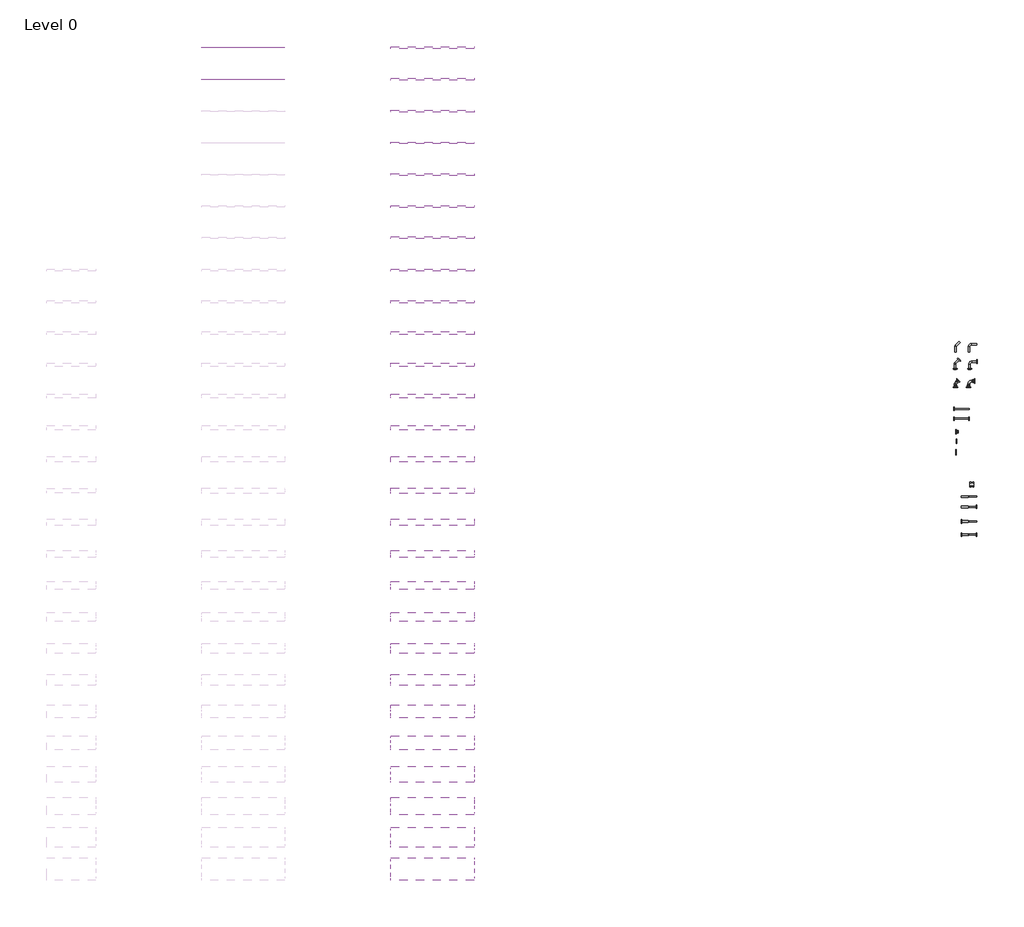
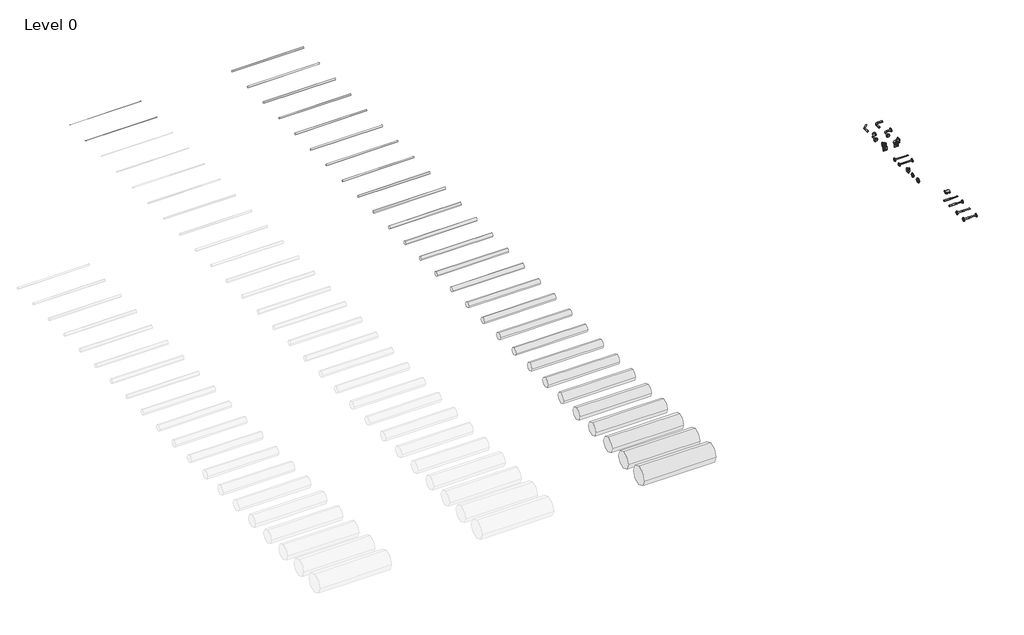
# One storey, part 4 of 4: 29 pipe segments, 16 pipe fittings.
"""IFC4 building model written with IfcOpenShell, lengths in millimetres."""

from ifc_helpers import new_model, si_unit, point, frame, frame_2d, origin, place, context, project, spatial, circle_curve, trimmed, segment, composite_curve, outline, extrude, transform, mapped, element, save
from components import pipe_fitting_988ed77e, pipe_fitting_e85de60f, pipe_fitting_1bf4a7b4, pipe_fitting_1_5d_4155cf32, pipe_fitting_1_5d_0310e5e9, pipe_fitting_1_5d_9149ee35, pipe_fitting_1_5d_a3e19622, pipe_fitting_1_5d_b493d12d, pipe_fitting_1_5d_3915571a, ansi_b16_5_class_150_oval_hole_type_57f7db80, gp_flanged_coupler_8253ec33, mechanical_double_connector_f0975d90, reducer_a0e9fbda, reducer_d87d33c5, reducer_c4914ecf, reducer_7f1960f9

model = new_model("IFC4")

# Units and contexts
model_context = context("Model", 3, world=origin())
ifc_project = project(units=[si_unit("LENGTHUNIT", "METRE", prefix="MILLI")], contexts=[model_context])

# Site, building, storey
site = spatial("IfcSite", under=ifc_project)
building = spatial("IfcBuilding", under=site)
storey = spatial("IfcBuildingStorey", under=building, Name="Level 0", Elevation=0.0)

# Pipe fittings
placement = place(None, origin())
pipe_fitting_shape = pipe_fitting_988ed77e(model_context)
element("IfcPipeFitting", 1, ObjectType="Plumbing-Pipe-Fittings_Pexgol_Flange_Flared-Ends : One side Flared end", at=placement, inside=storey, context=model_context, shape_type="MappedRepresentation", body=[
    mapped(pipe_fitting_shape, transform((53006.5183219, -12496.9453597, 0.0), x_axis=(1.0, 0.0, 0.0), y_axis=(0.0, 1.0, 0.0), z_axis=(0.0, 0.0, 1.0))),
])
pipe_fitting_2_shape = pipe_fitting_e85de60f(model_context)
element("IfcPipeFitting", 2, ObjectType="Plumbing-Pipe-Fittings_Pexgol_Flange_Flared-Ends : Both sides Flared end", at=placement, inside=storey, context=model_context, shape_type="MappedRepresentation", body=[
    mapped(pipe_fitting_2_shape, transform((53001.7727705, -12800.3576775, 0.0), x_axis=(1.0, 0.0, 0.0), y_axis=(0.0, 1.0, 0.0), z_axis=(0.0, 0.0, 1.0))),
])
pipe_fitting_3_shape = pipe_fitting_1bf4a7b4(model_context)
element("IfcPipeFitting", 3, ObjectType="Plumbing-Pipe-Fittings_Pexgol_Flange_Loose-Flange : Loose Flange for Flared end", at=placement, inside=storey, context=model_context, shape_type="MappedRepresentation", body=[
    mapped(pipe_fitting_3_shape, transform((53081.8962231, -13522.0584799, 0.0), x_axis=(1.0, 0.0, 0.0), y_axis=(0.0, 1.0, 0.0), z_axis=(0.0, 0.0, 1.0))),
])
pipe_fitting_1_5d_shape = pipe_fitting_1_5d_4155cf32(model_context)
element("IfcPipeFitting", 4, ObjectType="Plumbing-Pipe-Fittings_Pexgol_Elbow-45-with-both-sides-flared_ends : 1.5D", at=placement, inside=storey, context=model_context, shape_type="MappedRepresentation", body=[
    mapped(pipe_fitting_1_5d_shape, transform((53051.7875919, -11053.4227955, 0.0), x_axis=(1.0, 0.0, 0.0), y_axis=(0.0, 1.0, 0.0), z_axis=(0.0, 0.0, 1.0))),
])
pipe_fitting_1_5d_2_shape = pipe_fitting_1_5d_0310e5e9(model_context)
element("IfcPipeFitting", 5, ObjectType="Plumbing-Pipe-Fittings_Pexgol_Elbow-90-with-both-sides-flared_ends : 1.5D", at=placement, inside=storey, context=model_context, shape_type="MappedRepresentation", body=[
    mapped(pipe_fitting_1_5d_2_shape, transform((53510.4411202, -10993.4227955, 0.0), x_axis=(1.0, 0.0, 0.0), y_axis=(0.0, 1.0, 0.0), z_axis=(0.0, 0.0, 1.0))),
])
pipe_fitting_1_5d_3_shape = pipe_fitting_1_5d_9149ee35(model_context)
element("IfcPipeFitting", 6, ObjectType="Plumbing-Pipe-Fittings_Pexgol_Elbow-45-with-both-sides-plain-ends : 1.5D", at=placement, inside=storey, context=model_context, shape_type="MappedRepresentation", body=[
    mapped(pipe_fitting_1_5d_3_shape, transform((53058.1812695, -10501.5135356, 0.0), x_axis=(1.0, 0.0, 0.0), y_axis=(0.0, 1.0, 0.0), z_axis=(0.0, 0.0, 1.0))),
])
pipe_fitting_1_5d_4_shape = pipe_fitting_1_5d_a3e19622(model_context)
element("IfcPipeFitting", 7, ObjectType="Plumbing-Pipe-Fittings_Pexgol_Elbow-90-with-both-sides-plain-ends : 1.5D", at=placement, inside=storey, context=model_context, shape_type="MappedRepresentation", body=[
    mapped(pipe_fitting_1_5d_4_shape, transform((53493.8893176, -10441.5135356, 0.0), x_axis=(1.0, 0.0, 0.0), y_axis=(0.0, 1.0, 0.0), z_axis=(0.0, 0.0, 1.0))),
])
pipe_fitting_1_5d_5_shape = pipe_fitting_1_5d_b493d12d(model_context)
element("IfcPipeFitting", 8, ObjectType="Plumbing-Pipe-Fittings_Pexgol_Elbow-45-with-both-sides-GP-Flange-Couplers : 1.5D", at=placement, inside=storey, context=model_context, shape_type="MappedRepresentation", body=[
    mapped(pipe_fitting_1_5d_5_shape, transform((53062.2712641, -11680.1904416, 0.0), x_axis=(1.0, 0.0, 0.0), y_axis=(0.0, 1.0, 0.0), z_axis=(0.0, 0.0, 1.0))),
])
pipe_fitting_1_5d_6_shape = pipe_fitting_1_5d_3915571a(model_context)
element("IfcPipeFitting", 9, ObjectType="Plumbing-Pipe-Fittings_Pexgol_Elbow-90-with-both-sides-GP-Flange-Couplers : 1.5D", at=placement, inside=storey, context=model_context, shape_type="MappedRepresentation", body=[
    mapped(pipe_fitting_1_5d_6_shape, transform((53477.2026803, -11610.1904416, 0.0), x_axis=(1.0, 0.0, 0.0), y_axis=(0.0, 1.0, 0.0), z_axis=(0.0, 0.0, 1.0))),
])
ansi_b16_5_class_150_oval_hole_type_shape = ansi_b16_5_class_150_oval_hole_type_57f7db80(model_context)
element("IfcPipeFitting", 10, ObjectType="Plumbing-Pipe-Fittings_Pexgol_Flange_Split-Flange-for-Flared-Ends : ANSI B16.5 class 150 - Oval Hole Type", at=placement, inside=storey, context=model_context, shape_type="MappedRepresentation", body=[
    mapped(ansi_b16_5_class_150_oval_hole_type_shape, transform((53075.7047295, -13871.9992895, 0.0), x_axis=(1.0, 0.0, 0.0), y_axis=(0.0, 1.0, 0.0), z_axis=(0.0, 0.0, 1.0))),
])
gp_flanged_coupler_shape = gp_flanged_coupler_8253ec33(model_context)
element("IfcPipeFitting", 11, ObjectType="Plumbing-Pipe-Fittings_Pexgol_Flange-GP-Flange-Coupling : GP Flanged Coupler", at=placement, inside=storey, context=model_context, shape_type="MappedRepresentation", body=[
    mapped(gp_flanged_coupler_shape, transform((53076.2454382, -13219.6399507, 0.0), x_axis=(1.0, 0.0, 0.0), y_axis=(0.0, 1.0, 0.0), z_axis=(0.0, 0.0, 1.0))),
])
mechanical_double_connector_shape = mechanical_double_connector_f0975d90(model_context)
element("IfcPipeFitting", 12, ObjectType="Plumbing-Pipe-Fittings_Pexgol_Mechanical-Double-Connector : Mechanical Double Connector", at=placement, inside=storey, context=model_context, shape_type="MappedRepresentation", body=[
    mapped(mechanical_double_connector_shape, transform((53580.7891472, -14888.6094376, 0.0), x_axis=(1.0, 0.0, 0.0), y_axis=(0.0, 1.0, 0.0), z_axis=(0.0, 0.0, 1.0))),
])
reducer_shape = reducer_a0e9fbda(model_context)
element("IfcPipeFitting", 13, ObjectType="Plumbing-Pipe-Fittings_Pexgol_Reducer : Reducer", at=placement, inside=storey, context=model_context, shape_type="MappedRepresentation", body=[
    mapped(reducer_shape, transform((53481.1291343, -15275.0483342, 0.0), x_axis=(1.0, 0.0, 0.0), y_axis=(0.0, 1.0, 0.0), z_axis=(0.0, 0.0, 1.0))),
])
reducer_2_shape = reducer_d87d33c5(model_context)
element("IfcPipeFitting", 14, ObjectType="Plumbing-Pipe-Fittings_Pexgol_Reducer : Reducer", at=placement, inside=storey, context=model_context, shape_type="MappedRepresentation", body=[
    mapped(reducer_2_shape, transform((53481.1291343, -15605.0483342, 0.0), x_axis=(1.0, 0.0, 0.0), y_axis=(0.0, 1.0, 0.0), z_axis=(0.0, 0.0, 1.0))),
])
reducer_3_shape = reducer_c4914ecf(model_context)
element("IfcPipeFitting", 15, ObjectType="Plumbing-Pipe-Fittings_Pexgol_Reducer : Reducer", at=placement, inside=storey, context=model_context, shape_type="MappedRepresentation", body=[
    mapped(reducer_3_shape, transform((53481.1291343, -16485.0483342, 0.0), x_axis=(1.0, 0.0, 0.0), y_axis=(0.0, 1.0, 0.0), z_axis=(0.0, 0.0, 1.0))),
])
reducer_4_shape = reducer_7f1960f9(model_context)
element("IfcPipeFitting", 16, ObjectType="Plumbing-Pipe-Fittings_Pexgol_Reducer : Reducer", at=placement, inside=storey, context=model_context, shape_type="MappedRepresentation", body=[
    mapped(reducer_4_shape, transform((53481.1291343, -16065.0483342, 0.0), x_axis=(1.0, 0.0, 0.0), y_axis=(0.0, 1.0, 0.0), z_axis=(0.0, 0.0, 1.0))),
])

# Pipe segments
element("IfcPipeSegment", 17, ObjectType="Plumbing_Pipes_Pexgol_Cross-Linked-Polyethylene_Class-24", at=placement, inside=storey, context=model_context, shape_type="SweptSolid", body=[
    extrude(outline(composite_curve([segment(trimmed(circle_curve(frame_2d((-2036.7457436, 2750.0)), 8.0), [point((-2044.7457436, 2750.0))], [point((-2036.7457436, 2758.0))], False, "CARTESIAN"), True, "CONTINUOUS"), segment(trimmed(circle_curve(frame_2d((-2036.7457436, 2750.0)), 8.0), [point((-2036.7457436, 2758.0))], [point((-2028.7457436, 2750.0))], False, "CARTESIAN"), True, "CONTINUOUS"), segment(trimmed(circle_curve(frame_2d((-2036.7457436, 2750.0)), 8.0), [point((-2028.7457436, 2750.0))], [point((-2036.7457436, 2742.0))], False, "CARTESIAN"), True, "CONTINUOUS"), segment(trimmed(circle_curve(frame_2d((-2036.7457436, 2750.0)), 8.0), [point((-2036.7457436, 2742.0))], [point((-2044.7457436, 2750.0))], False, "CARTESIAN"), True, "CONTINUOUS")], self_intersect=False)), frame((29158.0416447, 0.0, 0.0), z_axis=(1.0, 0.0, 0.0), x_axis=(0.0, 1.0, 0.0)), (0.0, 0.0, 1.0), 2640.0),
])
element("IfcPipeSegment", 18, ObjectType="Plumbing_Pipes_Pexgol_Cross-Linked-Polyethylene_Class-24", at=placement, inside=storey, context=model_context, shape_type="SweptSolid", body=[
    extrude(outline(composite_curve([segment(trimmed(circle_curve(frame_2d((-1026.7457436, 2750.0)), 6.0), [point((-1032.7457436, 2750.0))], [point((-1026.7457436, 2756.0))], False, "CARTESIAN"), True, "CONTINUOUS"), segment(trimmed(circle_curve(frame_2d((-1026.7457436, 2750.0)), 6.0), [point((-1026.7457436, 2756.0))], [point((-1020.7457436, 2750.0))], False, "CARTESIAN"), True, "CONTINUOUS"), segment(trimmed(circle_curve(frame_2d((-1026.7457436, 2750.0)), 6.0), [point((-1020.7457436, 2750.0))], [point((-1026.7457436, 2744.0))], False, "CARTESIAN"), True, "CONTINUOUS"), segment(trimmed(circle_curve(frame_2d((-1026.7457436, 2750.0)), 6.0), [point((-1026.7457436, 2744.0))], [point((-1032.7457436, 2750.0))], False, "CARTESIAN"), True, "CONTINUOUS")], self_intersect=False)), frame((29158.0416447, 0.0, 0.0), z_axis=(1.0, 0.0, 0.0), x_axis=(0.0, 1.0, 0.0)), (0.0, 0.0, 1.0), 2640.0),
])
element("IfcPipeSegment", 19, ObjectType="Plumbing_Pipes_Pexgol_Cross-Linked-Polyethylene_Class-30", at=placement, inside=storey, context=model_context, shape_type="SweptSolid", body=[
    extrude(outline(composite_curve([segment(trimmed(circle_curve(frame_2d((-8091.7457436, 2750.0)), 31.5), [point((-8123.2457436, 2750.0))], [point((-8091.7457436, 2781.5))], False, "CARTESIAN"), True, "CONTINUOUS"), segment(trimmed(circle_curve(frame_2d((-8091.7457436, 2750.0)), 31.5), [point((-8091.7457436, 2781.5))], [point((-8060.2457436, 2750.0))], False, "CARTESIAN"), True, "CONTINUOUS"), segment(trimmed(circle_curve(frame_2d((-8091.7457436, 2750.0)), 31.5), [point((-8060.2457436, 2750.0))], [point((-8091.7457436, 2718.5))], False, "CARTESIAN"), True, "CONTINUOUS"), segment(trimmed(circle_curve(frame_2d((-8091.7457436, 2750.0)), 31.5), [point((-8091.7457436, 2718.5))], [point((-8123.2457436, 2750.0))], False, "CARTESIAN"), True, "CONTINUOUS")], self_intersect=False)), frame((35158.0416447, 0.0, 0.0), z_axis=(1.0, 0.0, 0.0), x_axis=(0.0, 1.0, 0.0)), (0.0, 0.0, 1.0), 2640.0),
])
element("IfcPipeSegment", 20, ObjectType="Plumbing_Pipes_Pexgol_Cross-Linked-Polyethylene_Class-30", at=placement, inside=storey, context=model_context, shape_type="SweptSolid", body=[
    extrude(outline(composite_curve([segment(trimmed(circle_curve(frame_2d((-9091.7457436, 2750.0)), 37.5), [point((-9129.2457436, 2750.0))], [point((-9091.7457436, 2787.5))], False, "CARTESIAN"), True, "CONTINUOUS"), segment(trimmed(circle_curve(frame_2d((-9091.7457436, 2750.0)), 37.5), [point((-9091.7457436, 2787.5))], [point((-9054.2457436, 2750.0))], False, "CARTESIAN"), True, "CONTINUOUS"), segment(trimmed(circle_curve(frame_2d((-9091.7457436, 2750.0)), 37.5), [point((-9054.2457436, 2750.0))], [point((-9091.7457436, 2712.5))], False, "CARTESIAN"), True, "CONTINUOUS"), segment(trimmed(circle_curve(frame_2d((-9091.7457436, 2750.0)), 37.5), [point((-9091.7457436, 2712.5))], [point((-9129.2457436, 2750.0))], False, "CARTESIAN"), True, "CONTINUOUS")], self_intersect=False)), frame((35158.0416447, 0.0, 0.0), z_axis=(1.0, 0.0, 0.0), x_axis=(0.0, 1.0, 0.0)), (0.0, 0.0, 1.0), 2640.0),
])
element("IfcPipeSegment", 21, ObjectType="Plumbing_Pipes_Pexgol_Cross-Linked-Polyethylene_Class-30", at=placement, inside=storey, context=model_context, shape_type="SweptSolid", body=[
    extrude(outline(composite_curve([segment(trimmed(circle_curve(frame_2d((-10091.7457436, 2750.0)), 45.0), [point((-10136.7457436, 2750.0))], [point((-10091.7457436, 2795.0))], False, "CARTESIAN"), True, "CONTINUOUS"), segment(trimmed(circle_curve(frame_2d((-10091.7457436, 2750.0)), 45.0), [point((-10091.7457436, 2795.0))], [point((-10046.7457436, 2750.0))], False, "CARTESIAN"), True, "CONTINUOUS"), segment(trimmed(circle_curve(frame_2d((-10091.7457436, 2750.0)), 45.0), [point((-10046.7457436, 2750.0))], [point((-10091.7457436, 2705.0))], False, "CARTESIAN"), True, "CONTINUOUS"), segment(trimmed(circle_curve(frame_2d((-10091.7457436, 2750.0)), 45.0), [point((-10091.7457436, 2705.0))], [point((-10136.7457436, 2750.0))], False, "CARTESIAN"), True, "CONTINUOUS")], self_intersect=False)), frame((35158.0416447, 0.0, 0.0), z_axis=(1.0, 0.0, 0.0), x_axis=(0.0, 1.0, 0.0)), (0.0, 0.0, 1.0), 2640.0),
])
element("IfcPipeSegment", 22, ObjectType="Plumbing_Pipes_Pexgol_Cross-Linked-Polyethylene_Class-30", at=placement, inside=storey, context=model_context, shape_type="SweptSolid", body=[
    extrude(outline(composite_curve([segment(trimmed(circle_curve(frame_2d((-11091.7457436, 2750.0)), 55.0), [point((-11146.7457436, 2750.0))], [point((-11091.7457436, 2805.0))], False, "CARTESIAN"), True, "CONTINUOUS"), segment(trimmed(circle_curve(frame_2d((-11091.7457436, 2750.0)), 55.0), [point((-11091.7457436, 2805.0))], [point((-11036.7457436, 2750.0))], False, "CARTESIAN"), True, "CONTINUOUS"), segment(trimmed(circle_curve(frame_2d((-11091.7457436, 2750.0)), 55.0), [point((-11036.7457436, 2750.0))], [point((-11091.7457436, 2695.0))], False, "CARTESIAN"), True, "CONTINUOUS"), segment(trimmed(circle_curve(frame_2d((-11091.7457436, 2750.0)), 55.0), [point((-11091.7457436, 2695.0))], [point((-11146.7457436, 2750.0))], False, "CARTESIAN"), True, "CONTINUOUS")], self_intersect=False)), frame((35158.0416447, 0.0, 0.0), z_axis=(1.0, 0.0, 0.0), x_axis=(0.0, 1.0, 0.0)), (0.0, 0.0, 1.0), 2640.0),
])
element("IfcPipeSegment", 23, ObjectType="Plumbing_Pipes_Pexgol_Cross-Linked-Polyethylene_Class-30", at=placement, inside=storey, context=model_context, shape_type="SweptSolid", body=[
    extrude(outline(composite_curve([segment(trimmed(circle_curve(frame_2d((-12091.7457436, 2750.0)), 62.5), [point((-12154.2457436, 2750.0))], [point((-12091.7457436, 2812.5))], False, "CARTESIAN"), True, "CONTINUOUS"), segment(trimmed(circle_curve(frame_2d((-12091.7457436, 2750.0)), 62.5), [point((-12091.7457436, 2812.5))], [point((-12029.2457436, 2750.0))], False, "CARTESIAN"), True, "CONTINUOUS"), segment(trimmed(circle_curve(frame_2d((-12091.7457436, 2750.0)), 62.5), [point((-12029.2457436, 2750.0))], [point((-12091.7457436, 2687.5))], False, "CARTESIAN"), True, "CONTINUOUS"), segment(trimmed(circle_curve(frame_2d((-12091.7457436, 2750.0)), 62.5), [point((-12091.7457436, 2687.5))], [point((-12154.2457436, 2750.0))], False, "CARTESIAN"), True, "CONTINUOUS")], self_intersect=False)), frame((35158.0416447, 0.0, 0.0), z_axis=(1.0, 0.0, 0.0), x_axis=(0.0, 1.0, 0.0)), (0.0, 0.0, 1.0), 2640.0),
])
element("IfcPipeSegment", 24, ObjectType="Plumbing_Pipes_Pexgol_Cross-Linked-Polyethylene_Class-30", at=placement, inside=storey, context=model_context, shape_type="SweptSolid", body=[
    extrude(outline(composite_curve([segment(trimmed(circle_curve(frame_2d((-13091.7457436, 2750.0)), 70.0), [point((-13161.7457436, 2750.0))], [point((-13091.7457436, 2820.0))], False, "CARTESIAN"), True, "CONTINUOUS"), segment(trimmed(circle_curve(frame_2d((-13091.7457436, 2750.0)), 70.0), [point((-13091.7457436, 2820.0))], [point((-13021.7457436, 2750.0))], False, "CARTESIAN"), True, "CONTINUOUS"), segment(trimmed(circle_curve(frame_2d((-13091.7457436, 2750.0)), 70.0), [point((-13021.7457436, 2750.0))], [point((-13091.7457436, 2680.0))], False, "CARTESIAN"), True, "CONTINUOUS"), segment(trimmed(circle_curve(frame_2d((-13091.7457436, 2750.0)), 70.0), [point((-13091.7457436, 2680.0))], [point((-13161.7457436, 2750.0))], False, "CARTESIAN"), True, "CONTINUOUS")], self_intersect=False)), frame((35158.0416447, 0.0, 0.0), z_axis=(1.0, 0.0, 0.0), x_axis=(0.0, 1.0, 0.0)), (0.0, 0.0, 1.0), 2640.0),
])
element("IfcPipeSegment", 25, ObjectType="Plumbing_Pipes_Pexgol_Cross-Linked-Polyethylene_Class-30", at=placement, inside=storey, context=model_context, shape_type="SweptSolid", body=[
    extrude(outline(composite_curve([segment(trimmed(circle_curve(frame_2d((-14091.7457436, 2750.0)), 80.0), [point((-14171.7457436, 2750.0))], [point((-14091.7457436, 2830.0))], False, "CARTESIAN"), True, "CONTINUOUS"), segment(trimmed(circle_curve(frame_2d((-14091.7457436, 2750.0)), 80.0), [point((-14091.7457436, 2830.0))], [point((-14011.7457436, 2750.0))], False, "CARTESIAN"), True, "CONTINUOUS"), segment(trimmed(circle_curve(frame_2d((-14091.7457436, 2750.0)), 80.0), [point((-14011.7457436, 2750.0))], [point((-14091.7457436, 2670.0))], False, "CARTESIAN"), True, "CONTINUOUS"), segment(trimmed(circle_curve(frame_2d((-14091.7457436, 2750.0)), 80.0), [point((-14091.7457436, 2670.0))], [point((-14171.7457436, 2750.0))], False, "CARTESIAN"), True, "CONTINUOUS")], self_intersect=False)), frame((35158.0416447, 0.0, 0.0), z_axis=(1.0, 0.0, 0.0), x_axis=(0.0, 1.0, 0.0)), (0.0, 0.0, 1.0), 2640.0),
])
element("IfcPipeSegment", 26, ObjectType="Plumbing_Pipes_Pexgol_Cross-Linked-Polyethylene_Class-30", at=placement, inside=storey, context=model_context, shape_type="SweptSolid", body=[
    extrude(outline(composite_curve([segment(trimmed(circle_curve(frame_2d((-15091.7457436, 2750.0)), 90.0), [point((-15181.7457436, 2750.0))], [point((-15091.7457436, 2840.0))], False, "CARTESIAN"), True, "CONTINUOUS"), segment(trimmed(circle_curve(frame_2d((-15091.7457436, 2750.0)), 90.0), [point((-15091.7457436, 2840.0))], [point((-15001.7457436, 2750.0))], False, "CARTESIAN"), True, "CONTINUOUS"), segment(trimmed(circle_curve(frame_2d((-15091.7457436, 2750.0)), 90.0), [point((-15001.7457436, 2750.0))], [point((-15091.7457436, 2660.0))], False, "CARTESIAN"), True, "CONTINUOUS"), segment(trimmed(circle_curve(frame_2d((-15091.7457436, 2750.0)), 90.0), [point((-15091.7457436, 2660.0))], [point((-15181.7457436, 2750.0))], False, "CARTESIAN"), True, "CONTINUOUS")], self_intersect=False)), frame((35158.0416447, 0.0, 0.0), z_axis=(1.0, 0.0, 0.0), x_axis=(0.0, 1.0, 0.0)), (0.0, 0.0, 1.0), 2640.0),
])
element("IfcPipeSegment", 27, ObjectType="Plumbing_Pipes_Pexgol_Cross-Linked-Polyethylene_Class-30", at=placement, inside=storey, context=model_context, shape_type="SweptSolid", body=[
    extrude(outline(composite_curve([segment(trimmed(circle_curve(frame_2d((-16091.7457436, 2750.0)), 100.0), [point((-16191.7457436, 2750.0))], [point((-16091.7457436, 2850.0))], False, "CARTESIAN"), True, "CONTINUOUS"), segment(trimmed(circle_curve(frame_2d((-16091.7457436, 2750.0)), 100.0), [point((-16091.7457436, 2850.0))], [point((-15991.7457436, 2750.0))], False, "CARTESIAN"), True, "CONTINUOUS"), segment(trimmed(circle_curve(frame_2d((-16091.7457436, 2750.0)), 100.0), [point((-15991.7457436, 2750.0))], [point((-16091.7457436, 2650.0))], False, "CARTESIAN"), True, "CONTINUOUS"), segment(trimmed(circle_curve(frame_2d((-16091.7457436, 2750.0)), 100.0), [point((-16091.7457436, 2650.0))], [point((-16191.7457436, 2750.0))], False, "CARTESIAN"), True, "CONTINUOUS")], self_intersect=False)), frame((35158.0416447, 0.0, 0.0), z_axis=(1.0, 0.0, 0.0), x_axis=(0.0, 1.0, 0.0)), (0.0, 0.0, 1.0), 2640.0),
])
element("IfcPipeSegment", 28, ObjectType="Plumbing_Pipes_Pexgol_Cross-Linked-Polyethylene_Class-30", at=placement, inside=storey, context=model_context, shape_type="SweptSolid", body=[
    extrude(outline(composite_curve([segment(trimmed(circle_curve(frame_2d((-17091.7457436, 2750.0)), 112.5), [point((-17204.2457436, 2750.0))], [point((-17091.7457436, 2862.5))], False, "CARTESIAN"), True, "CONTINUOUS"), segment(trimmed(circle_curve(frame_2d((-17091.7457436, 2750.0)), 112.5), [point((-17091.7457436, 2862.5))], [point((-16979.2457436, 2750.0))], False, "CARTESIAN"), True, "CONTINUOUS"), segment(trimmed(circle_curve(frame_2d((-17091.7457436, 2750.0)), 112.5), [point((-16979.2457436, 2750.0))], [point((-17091.7457436, 2637.5))], False, "CARTESIAN"), True, "CONTINUOUS"), segment(trimmed(circle_curve(frame_2d((-17091.7457436, 2750.0)), 112.5), [point((-17091.7457436, 2637.5))], [point((-17204.2457436, 2750.0))], False, "CARTESIAN"), True, "CONTINUOUS")], self_intersect=False)), frame((35158.0416447, 0.0, 0.0), z_axis=(1.0, 0.0, 0.0), x_axis=(0.0, 1.0, 0.0)), (0.0, 0.0, 1.0), 2640.0),
])
element("IfcPipeSegment", 29, ObjectType="Plumbing_Pipes_Pexgol_Cross-Linked-Polyethylene_Class-30", at=placement, inside=storey, context=model_context, shape_type="SweptSolid", body=[
    extrude(outline(composite_curve([segment(trimmed(circle_curve(frame_2d((-18091.7457436, 2750.0)), 125.0), [point((-18216.7457436, 2750.0))], [point((-18091.7457436, 2875.0))], False, "CARTESIAN"), True, "CONTINUOUS"), segment(trimmed(circle_curve(frame_2d((-18091.7457436, 2750.0)), 125.0), [point((-18091.7457436, 2875.0))], [point((-17966.7457436, 2750.0))], False, "CARTESIAN"), True, "CONTINUOUS"), segment(trimmed(circle_curve(frame_2d((-18091.7457436, 2750.0)), 125.0), [point((-17966.7457436, 2750.0))], [point((-18091.7457436, 2625.0))], False, "CARTESIAN"), True, "CONTINUOUS"), segment(trimmed(circle_curve(frame_2d((-18091.7457436, 2750.0)), 125.0), [point((-18091.7457436, 2625.0))], [point((-18216.7457436, 2750.0))], False, "CARTESIAN"), True, "CONTINUOUS")], self_intersect=False)), frame((35158.0416447, 0.0, 0.0), z_axis=(1.0, 0.0, 0.0), x_axis=(0.0, 1.0, 0.0)), (0.0, 0.0, 1.0), 2640.0),
])
element("IfcPipeSegment", 30, ObjectType="Plumbing_Pipes_Pexgol_Cross-Linked-Polyethylene_Class-30", at=placement, inside=storey, context=model_context, shape_type="SweptSolid", body=[
    extrude(outline(composite_curve([segment(trimmed(circle_curve(frame_2d((-19091.7457436, 2750.0)), 140.0), [point((-19231.7457436, 2750.0))], [point((-19091.7457436, 2890.0))], False, "CARTESIAN"), True, "CONTINUOUS"), segment(trimmed(circle_curve(frame_2d((-19091.7457436, 2750.0)), 140.0), [point((-19091.7457436, 2890.0))], [point((-18951.7457436, 2750.0))], False, "CARTESIAN"), True, "CONTINUOUS"), segment(trimmed(circle_curve(frame_2d((-19091.7457436, 2750.0)), 140.0), [point((-18951.7457436, 2750.0))], [point((-19091.7457436, 2610.0))], False, "CARTESIAN"), True, "CONTINUOUS"), segment(trimmed(circle_curve(frame_2d((-19091.7457436, 2750.0)), 140.0), [point((-19091.7457436, 2610.0))], [point((-19231.7457436, 2750.0))], False, "CARTESIAN"), True, "CONTINUOUS")], self_intersect=False)), frame((35158.0416447, 0.0, 0.0), z_axis=(1.0, 0.0, 0.0), x_axis=(0.0, 1.0, 0.0)), (0.0, 0.0, 1.0), 2640.0),
])
element("IfcPipeSegment", 31, ObjectType="Plumbing_Pipes_Pexgol_Cross-Linked-Polyethylene_Class-30", at=placement, inside=storey, context=model_context, shape_type="SweptSolid", body=[
    extrude(outline(composite_curve([segment(trimmed(circle_curve(frame_2d((-20091.7457436, 2750.0)), 157.5), [point((-20249.2457436, 2750.0))], [point((-20091.7457436, 2907.5))], False, "CARTESIAN"), True, "CONTINUOUS"), segment(trimmed(circle_curve(frame_2d((-20091.7457436, 2750.0)), 157.5), [point((-20091.7457436, 2907.5))], [point((-19934.2457436, 2750.0))], False, "CARTESIAN"), True, "CONTINUOUS"), segment(trimmed(circle_curve(frame_2d((-20091.7457436, 2750.0)), 157.5), [point((-19934.2457436, 2750.0))], [point((-20091.7457436, 2592.5))], False, "CARTESIAN"), True, "CONTINUOUS"), segment(trimmed(circle_curve(frame_2d((-20091.7457436, 2750.0)), 157.5), [point((-20091.7457436, 2592.5))], [point((-20249.2457436, 2750.0))], False, "CARTESIAN"), True, "CONTINUOUS")], self_intersect=False)), frame((35158.0416447, 0.0, 0.0), z_axis=(1.0, 0.0, 0.0), x_axis=(0.0, 1.0, 0.0)), (0.0, 0.0, 1.0), 2640.0),
])
element("IfcPipeSegment", 32, ObjectType="Plumbing_Pipes_Pexgol_Cross-Linked-Polyethylene_Class-30", at=placement, inside=storey, context=model_context, shape_type="SweptSolid", body=[
    extrude(outline(composite_curve([segment(trimmed(circle_curve(frame_2d((-21091.7457436, 2750.0)), 177.5), [point((-21269.2457436, 2750.0))], [point((-21091.7457436, 2927.5))], False, "CARTESIAN"), True, "CONTINUOUS"), segment(trimmed(circle_curve(frame_2d((-21091.7457436, 2750.0)), 177.5), [point((-21091.7457436, 2927.5))], [point((-20914.2457436, 2750.0))], False, "CARTESIAN"), True, "CONTINUOUS"), segment(trimmed(circle_curve(frame_2d((-21091.7457436, 2750.0)), 177.5), [point((-20914.2457436, 2750.0))], [point((-21091.7457436, 2572.5))], False, "CARTESIAN"), True, "CONTINUOUS"), segment(trimmed(circle_curve(frame_2d((-21091.7457436, 2750.0)), 177.5), [point((-21091.7457436, 2572.5))], [point((-21269.2457436, 2750.0))], False, "CARTESIAN"), True, "CONTINUOUS")], self_intersect=False)), frame((35158.0416447, 0.0, 0.0), z_axis=(1.0, 0.0, 0.0), x_axis=(0.0, 1.0, 0.0)), (0.0, 0.0, 1.0), 2640.0),
])
element("IfcPipeSegment", 33, ObjectType="Plumbing_Pipes_Pexgol_Cross-Linked-Polyethylene_Class-30", at=placement, inside=storey, context=model_context, shape_type="SweptSolid", body=[
    extrude(outline(composite_curve([segment(trimmed(circle_curve(frame_2d((-22091.7457436, 2750.0)), 200.0), [point((-22291.7457436, 2750.0))], [point((-22091.7457436, 2950.0))], False, "CARTESIAN"), True, "CONTINUOUS"), segment(trimmed(circle_curve(frame_2d((-22091.7457436, 2750.0)), 200.0), [point((-22091.7457436, 2950.0))], [point((-21891.7457436, 2750.0))], False, "CARTESIAN"), True, "CONTINUOUS"), segment(trimmed(circle_curve(frame_2d((-22091.7457436, 2750.0)), 200.0), [point((-21891.7457436, 2750.0))], [point((-22091.7457436, 2550.0))], False, "CARTESIAN"), True, "CONTINUOUS"), segment(trimmed(circle_curve(frame_2d((-22091.7457436, 2750.0)), 200.0), [point((-22091.7457436, 2550.0))], [point((-22291.7457436, 2750.0))], False, "CARTESIAN"), True, "CONTINUOUS")], self_intersect=False)), frame((35158.0416447, 0.0, 0.0), z_axis=(1.0, 0.0, 0.0), x_axis=(0.0, 1.0, 0.0)), (0.0, 0.0, 1.0), 2640.0),
])
element("IfcPipeSegment", 34, ObjectType="Plumbing_Pipes_Pexgol_Cross-Linked-Polyethylene_Class-30", at=placement, inside=storey, context=model_context, shape_type="SweptSolid", body=[
    extrude(outline(composite_curve([segment(trimmed(circle_curve(frame_2d((-23091.7457436, 2750.0)), 225.0), [point((-23316.7457436, 2750.0))], [point((-23091.7457436, 2975.0))], False, "CARTESIAN"), True, "CONTINUOUS"), segment(trimmed(circle_curve(frame_2d((-23091.7457436, 2750.0)), 225.0), [point((-23091.7457436, 2975.0))], [point((-22866.7457436, 2750.0))], False, "CARTESIAN"), True, "CONTINUOUS"), segment(trimmed(circle_curve(frame_2d((-23091.7457436, 2750.0)), 225.0), [point((-22866.7457436, 2750.0))], [point((-23091.7457436, 2525.0))], False, "CARTESIAN"), True, "CONTINUOUS"), segment(trimmed(circle_curve(frame_2d((-23091.7457436, 2750.0)), 225.0), [point((-23091.7457436, 2525.0))], [point((-23316.7457436, 2750.0))], False, "CARTESIAN"), True, "CONTINUOUS")], self_intersect=False)), frame((35158.0416447, 0.0, 0.0), z_axis=(1.0, 0.0, 0.0), x_axis=(0.0, 1.0, 0.0)), (0.0, 0.0, 1.0), 2640.0),
])
element("IfcPipeSegment", 35, ObjectType="Plumbing_Pipes_Pexgol_Cross-Linked-Polyethylene_Class-30", at=placement, inside=storey, context=model_context, shape_type="SweptSolid", body=[
    extrude(outline(composite_curve([segment(trimmed(circle_curve(frame_2d((-24091.7457436, 2750.0)), 250.0), [point((-24341.7457436, 2750.0))], [point((-24091.7457436, 3000.0))], False, "CARTESIAN"), True, "CONTINUOUS"), segment(trimmed(circle_curve(frame_2d((-24091.7457436, 2750.0)), 250.0), [point((-24091.7457436, 3000.0))], [point((-23841.7457436, 2750.0))], False, "CARTESIAN"), True, "CONTINUOUS"), segment(trimmed(circle_curve(frame_2d((-24091.7457436, 2750.0)), 250.0), [point((-23841.7457436, 2750.0))], [point((-24091.7457436, 2500.0))], False, "CARTESIAN"), True, "CONTINUOUS"), segment(trimmed(circle_curve(frame_2d((-24091.7457436, 2750.0)), 250.0), [point((-24091.7457436, 2500.0))], [point((-24341.7457436, 2750.0))], False, "CARTESIAN"), True, "CONTINUOUS")], self_intersect=False)), frame((35158.0416447, 0.0, 0.0), z_axis=(1.0, 0.0, 0.0), x_axis=(0.0, 1.0, 0.0)), (0.0, 0.0, 1.0), 2640.0),
])
element("IfcPipeSegment", 36, ObjectType="Plumbing_Pipes_Pexgol_Cross-Linked-Polyethylene_Class-30", at=placement, inside=storey, context=model_context, shape_type="SweptSolid", body=[
    extrude(outline(composite_curve([segment(trimmed(circle_curve(frame_2d((-25091.7457436, 2750.0)), 280.0), [point((-25371.7457436, 2750.0))], [point((-25091.7457436, 3030.0))], False, "CARTESIAN"), True, "CONTINUOUS"), segment(trimmed(circle_curve(frame_2d((-25091.7457436, 2750.0)), 280.0), [point((-25091.7457436, 3030.0))], [point((-24811.7457436, 2750.0))], False, "CARTESIAN"), True, "CONTINUOUS"), segment(trimmed(circle_curve(frame_2d((-25091.7457436, 2750.0)), 280.0), [point((-24811.7457436, 2750.0))], [point((-25091.7457436, 2470.0))], False, "CARTESIAN"), True, "CONTINUOUS"), segment(trimmed(circle_curve(frame_2d((-25091.7457436, 2750.0)), 280.0), [point((-25091.7457436, 2470.0))], [point((-25371.7457436, 2750.0))], False, "CARTESIAN"), True, "CONTINUOUS")], self_intersect=False)), frame((35158.0416447, 0.0, 0.0), z_axis=(1.0, 0.0, 0.0), x_axis=(0.0, 1.0, 0.0)), (0.0, 0.0, 1.0), 2640.0),
])
element("IfcPipeSegment", 37, ObjectType="Plumbing_Pipes_Pexgol_Cross-Linked-Polyethylene_Class-30", at=placement, inside=storey, context=model_context, shape_type="SweptSolid", body=[
    extrude(outline(composite_curve([segment(trimmed(circle_curve(frame_2d((-26091.7457436, 2750.0)), 315.0), [point((-26406.7457436, 2750.0))], [point((-26091.7457436, 3065.0))], False, "CARTESIAN"), True, "CONTINUOUS"), segment(trimmed(circle_curve(frame_2d((-26091.7457436, 2750.0)), 315.0), [point((-26091.7457436, 3065.0))], [point((-25776.7457436, 2750.0))], False, "CARTESIAN"), True, "CONTINUOUS"), segment(trimmed(circle_curve(frame_2d((-26091.7457436, 2750.0)), 315.0), [point((-25776.7457436, 2750.0))], [point((-26091.7457436, 2435.0))], False, "CARTESIAN"), True, "CONTINUOUS"), segment(trimmed(circle_curve(frame_2d((-26091.7457436, 2750.0)), 315.0), [point((-26091.7457436, 2435.0))], [point((-26406.7457436, 2750.0))], False, "CARTESIAN"), True, "CONTINUOUS")], self_intersect=False)), frame((35158.0416447, 0.0, 0.0), z_axis=(1.0, 0.0, 0.0), x_axis=(0.0, 1.0, 0.0)), (0.0, 0.0, 1.0), 2640.0),
])
element("IfcPipeSegment", 38, ObjectType="Plumbing_Pipes_Pexgol_Cross-Linked-Polyethylene_Class-30", at=placement, inside=storey, context=model_context, shape_type="SweptSolid", body=[
    extrude(outline(composite_curve([segment(trimmed(circle_curve(frame_2d((-27091.7457436, 2750.0)), 355.0), [point((-27446.7457436, 2750.0))], [point((-27091.7457436, 3105.0))], False, "CARTESIAN"), True, "CONTINUOUS"), segment(trimmed(circle_curve(frame_2d((-27091.7457436, 2750.0)), 355.0), [point((-27091.7457436, 3105.0))], [point((-26736.7457436, 2750.0))], False, "CARTESIAN"), True, "CONTINUOUS"), segment(trimmed(circle_curve(frame_2d((-27091.7457436, 2750.0)), 355.0), [point((-26736.7457436, 2750.0))], [point((-27091.7457436, 2395.0))], False, "CARTESIAN"), True, "CONTINUOUS"), segment(trimmed(circle_curve(frame_2d((-27091.7457436, 2750.0)), 355.0), [point((-27091.7457436, 2395.0))], [point((-27446.7457436, 2750.0))], False, "CARTESIAN"), True, "CONTINUOUS")], self_intersect=False)), frame((35158.0416447, 0.0, 0.0), z_axis=(1.0, 0.0, 0.0), x_axis=(0.0, 1.0, 0.0)), (0.0, 0.0, 1.0), 2640.0),
])
element("IfcPipeSegment", 39, ObjectType="Plumbing_Pipes_Pexgol_Cross-Linked-Polyethylene_Class-30", at=placement, inside=storey, context=model_context, shape_type="SweptSolid", body=[
    extrude(outline(composite_curve([segment(trimmed(circle_curve(frame_2d((-7061.6457436, 2750.0)), 31.5), [point((-7093.1457436, 2750.0))], [point((-7061.6457436, 2781.5))], False, "CARTESIAN"), True, "CONTINUOUS"), segment(trimmed(circle_curve(frame_2d((-7061.6457436, 2750.0)), 31.5), [point((-7061.6457436, 2781.5))], [point((-7030.1457436, 2750.0))], False, "CARTESIAN"), True, "CONTINUOUS"), segment(trimmed(circle_curve(frame_2d((-7061.6457436, 2750.0)), 31.5), [point((-7030.1457436, 2750.0))], [point((-7061.6457436, 2718.5))], False, "CARTESIAN"), True, "CONTINUOUS"), segment(trimmed(circle_curve(frame_2d((-7061.6457436, 2750.0)), 31.5), [point((-7061.6457436, 2718.5))], [point((-7093.1457436, 2750.0))], False, "CARTESIAN"), True, "CONTINUOUS")], self_intersect=False)), frame((35158.0416447, 0.0, 0.0), z_axis=(1.0, 0.0, 0.0), x_axis=(0.0, 1.0, 0.0)), (0.0, 0.0, 1.0), 2640.0),
])
element("IfcPipeSegment", 40, ObjectType="Plumbing_Pipes_Pexgol_Cross-Linked-Polyethylene_Class-30", at=placement, inside=storey, context=model_context, shape_type="SweptSolid", body=[
    extrude(outline(composite_curve([segment(trimmed(circle_curve(frame_2d((-6071.7457436, 2750.0)), 31.5), [point((-6103.2457436, 2750.0))], [point((-6071.7457436, 2781.5))], False, "CARTESIAN"), True, "CONTINUOUS"), segment(trimmed(circle_curve(frame_2d((-6071.7457436, 2750.0)), 31.5), [point((-6071.7457436, 2781.5))], [point((-6040.2457436, 2750.0))], False, "CARTESIAN"), True, "CONTINUOUS"), segment(trimmed(circle_curve(frame_2d((-6071.7457436, 2750.0)), 31.5), [point((-6040.2457436, 2750.0))], [point((-6071.7457436, 2718.5))], False, "CARTESIAN"), True, "CONTINUOUS"), segment(trimmed(circle_curve(frame_2d((-6071.7457436, 2750.0)), 31.5), [point((-6071.7457436, 2718.5))], [point((-6103.2457436, 2750.0))], False, "CARTESIAN"), True, "CONTINUOUS")], self_intersect=False)), frame((35158.0416447, 0.0, 0.0), z_axis=(1.0, 0.0, 0.0), x_axis=(0.0, 1.0, 0.0)), (0.0, 0.0, 1.0), 2640.0),
])
element("IfcPipeSegment", 41, ObjectType="Plumbing_Pipes_Pexgol_Cross-Linked-Polyethylene_Class-30", at=placement, inside=storey, context=model_context, shape_type="SweptSolid", body=[
    extrude(outline(composite_curve([segment(trimmed(circle_curve(frame_2d((-5061.7457436, 2750.0)), 31.5), [point((-5093.2457436, 2750.0))], [point((-5061.7457436, 2781.5))], False, "CARTESIAN"), True, "CONTINUOUS"), segment(trimmed(circle_curve(frame_2d((-5061.7457436, 2750.0)), 31.5), [point((-5061.7457436, 2781.5))], [point((-5030.2457436, 2750.0))], False, "CARTESIAN"), True, "CONTINUOUS"), segment(trimmed(circle_curve(frame_2d((-5061.7457436, 2750.0)), 31.5), [point((-5030.2457436, 2750.0))], [point((-5061.7457436, 2718.5))], False, "CARTESIAN"), True, "CONTINUOUS"), segment(trimmed(circle_curve(frame_2d((-5061.7457436, 2750.0)), 31.5), [point((-5061.7457436, 2718.5))], [point((-5093.2457436, 2750.0))], False, "CARTESIAN"), True, "CONTINUOUS")], self_intersect=False)), frame((35158.0416447, 0.0, 0.0), z_axis=(1.0, 0.0, 0.0), x_axis=(0.0, 1.0, 0.0)), (0.0, 0.0, 1.0), 2640.0),
])
element("IfcPipeSegment", 42, ObjectType="Plumbing_Pipes_Pexgol_Cross-Linked-Polyethylene_Class-30", at=placement, inside=storey, context=model_context, shape_type="SweptSolid", body=[
    extrude(outline(composite_curve([segment(trimmed(circle_curve(frame_2d((-4054.2457436, 2750.0)), 31.5), [point((-4085.7457436, 2750.0))], [point((-4054.2457436, 2781.5))], False, "CARTESIAN"), True, "CONTINUOUS"), segment(trimmed(circle_curve(frame_2d((-4054.2457436, 2750.0)), 31.5), [point((-4054.2457436, 2781.5))], [point((-4022.7457436, 2750.0))], False, "CARTESIAN"), True, "CONTINUOUS"), segment(trimmed(circle_curve(frame_2d((-4054.2457436, 2750.0)), 31.5), [point((-4022.7457436, 2750.0))], [point((-4054.2457436, 2718.5))], False, "CARTESIAN"), True, "CONTINUOUS"), segment(trimmed(circle_curve(frame_2d((-4054.2457436, 2750.0)), 31.5), [point((-4054.2457436, 2718.5))], [point((-4085.7457436, 2750.0))], False, "CARTESIAN"), True, "CONTINUOUS")], self_intersect=False)), frame((35158.0416447, 0.0, 0.0), z_axis=(1.0, 0.0, 0.0), x_axis=(0.0, 1.0, 0.0)), (0.0, 0.0, 1.0), 2640.0),
])
element("IfcPipeSegment", 43, ObjectType="Plumbing_Pipes_Pexgol_Cross-Linked-Polyethylene_Class-30", at=placement, inside=storey, context=model_context, shape_type="SweptSolid", body=[
    extrude(outline(composite_curve([segment(trimmed(circle_curve(frame_2d((-3046.7457436, 2750.0)), 31.5), [point((-3078.2457436, 2750.0))], [point((-3046.7457436, 2781.5))], False, "CARTESIAN"), True, "CONTINUOUS"), segment(trimmed(circle_curve(frame_2d((-3046.7457436, 2750.0)), 31.5), [point((-3046.7457436, 2781.5))], [point((-3015.2457436, 2750.0))], False, "CARTESIAN"), True, "CONTINUOUS"), segment(trimmed(circle_curve(frame_2d((-3046.7457436, 2750.0)), 31.5), [point((-3015.2457436, 2750.0))], [point((-3046.7457436, 2718.5))], False, "CARTESIAN"), True, "CONTINUOUS"), segment(trimmed(circle_curve(frame_2d((-3046.7457436, 2750.0)), 31.5), [point((-3046.7457436, 2718.5))], [point((-3078.2457436, 2750.0))], False, "CARTESIAN"), True, "CONTINUOUS")], self_intersect=False)), frame((35158.0416447, 0.0, 0.0), z_axis=(1.0, 0.0, 0.0), x_axis=(0.0, 1.0, 0.0)), (0.0, 0.0, 1.0), 2640.0),
])
element("IfcPipeSegment", 44, ObjectType="Plumbing_Pipes_Pexgol_Cross-Linked-Polyethylene_Class-30", at=placement, inside=storey, context=model_context, shape_type="SweptSolid", body=[
    extrude(outline(composite_curve([segment(trimmed(circle_curve(frame_2d((-2036.7457436, 2750.0)), 31.5), [point((-2068.2457436, 2750.0))], [point((-2036.7457436, 2781.5))], False, "CARTESIAN"), True, "CONTINUOUS"), segment(trimmed(circle_curve(frame_2d((-2036.7457436, 2750.0)), 31.5), [point((-2036.7457436, 2781.5))], [point((-2005.2457436, 2750.0))], False, "CARTESIAN"), True, "CONTINUOUS"), segment(trimmed(circle_curve(frame_2d((-2036.7457436, 2750.0)), 31.5), [point((-2005.2457436, 2750.0))], [point((-2036.7457436, 2718.5))], False, "CARTESIAN"), True, "CONTINUOUS"), segment(trimmed(circle_curve(frame_2d((-2036.7457436, 2750.0)), 31.5), [point((-2036.7457436, 2718.5))], [point((-2068.2457436, 2750.0))], False, "CARTESIAN"), True, "CONTINUOUS")], self_intersect=False)), frame((35158.0416447, 0.0, 0.0), z_axis=(1.0, 0.0, 0.0), x_axis=(0.0, 1.0, 0.0)), (0.0, 0.0, 1.0), 2640.0),
])
element("IfcPipeSegment", 45, ObjectType="Plumbing_Pipes_Pexgol_Cross-Linked-Polyethylene_Class-30", at=placement, inside=storey, context=model_context, shape_type="SweptSolid", body=[
    extrude(outline(composite_curve([segment(trimmed(circle_curve(frame_2d((-1026.7457436, 2750.0)), 31.5), [point((-1058.2457436, 2750.0))], [point((-1026.7457436, 2781.5))], False, "CARTESIAN"), True, "CONTINUOUS"), segment(trimmed(circle_curve(frame_2d((-1026.7457436, 2750.0)), 31.5), [point((-1026.7457436, 2781.5))], [point((-995.2457436, 2750.0))], False, "CARTESIAN"), True, "CONTINUOUS"), segment(trimmed(circle_curve(frame_2d((-1026.7457436, 2750.0)), 31.5), [point((-995.2457436, 2750.0))], [point((-1026.7457436, 2718.5))], False, "CARTESIAN"), True, "CONTINUOUS"), segment(trimmed(circle_curve(frame_2d((-1026.7457436, 2750.0)), 31.5), [point((-1026.7457436, 2718.5))], [point((-1058.2457436, 2750.0))], False, "CARTESIAN"), True, "CONTINUOUS")], self_intersect=False)), frame((35158.0416447, 0.0, 0.0), z_axis=(1.0, 0.0, 0.0), x_axis=(0.0, 1.0, 0.0)), (0.0, 0.0, 1.0), 2640.0),
])

save(model, "model.ifc")
